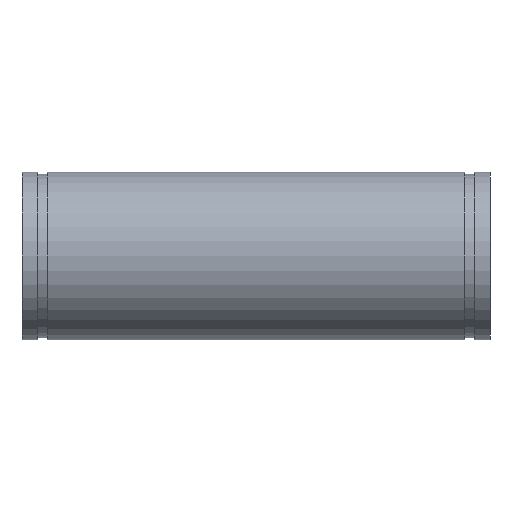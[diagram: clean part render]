
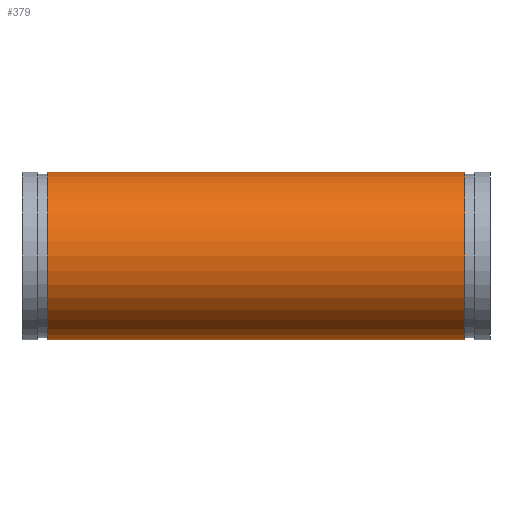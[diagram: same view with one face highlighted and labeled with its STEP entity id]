
A CAD part, left-side view. The second image highlights one B-rep face of the part: STEP entity #379.
In plain terms, the highlighted cylindrical face has radius 84.138 mm (diameter 168.275 mm), a full revolution.
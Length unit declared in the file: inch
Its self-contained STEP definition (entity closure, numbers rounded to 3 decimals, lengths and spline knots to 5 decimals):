
#45=ELLIPSE('',#439,8.65598,3.3125);
#46=ELLIPSE('',#440,8.65598,3.3125);
#47=ELLIPSE('',#441,3.58542,3.3125);
#57=LINE('',#676,#68);
#68=VECTOR('',#544,3.3125);
#79=CYLINDRICAL_SURFACE('',#438,3.3125);
#90=FACE_BOUND('',#131,.T.);
#105=FACE_OUTER_BOUND('',#130,.T.);
#130=EDGE_LOOP('',(#292,#293,#294,#295));
#131=EDGE_LOOP('',(#296,#297,#298));
#154=CIRCLE('',#426,3.3125);
#155=CIRCLE('',#428,3.3125);
#181=VERTEX_POINT('',#653);
#182=VERTEX_POINT('',#656);
#189=VERTEX_POINT('',#677);
#190=VERTEX_POINT('',#678);
#191=VERTEX_POINT('',#680);
#218=EDGE_CURVE('',#181,#181,#154,.T.);
#219=EDGE_CURVE('',#182,#182,#155,.T.);
#228=EDGE_CURVE('',#181,#182,#57,.T.);
#229=EDGE_CURVE('',#189,#190,#45,.T.);
#230=EDGE_CURVE('',#190,#191,#46,.T.);
#231=EDGE_CURVE('',#191,#189,#47,.T.);
#292=ORIENTED_EDGE('',*,*,#218,.T.);
#293=ORIENTED_EDGE('',*,*,#228,.T.);
#294=ORIENTED_EDGE('',*,*,#219,.T.);
#295=ORIENTED_EDGE('',*,*,#228,.F.);
#296=ORIENTED_EDGE('',*,*,#229,.T.);
#297=ORIENTED_EDGE('',*,*,#230,.T.);
#298=ORIENTED_EDGE('',*,*,#231,.T.);
#379=ADVANCED_FACE('',(#105,#90),#79,.T.);
#426=AXIS2_PLACEMENT_3D('',#654,#516,#517);
#428=AXIS2_PLACEMENT_3D('',#657,#520,#521);
#438=AXIS2_PLACEMENT_3D('',#675,#542,#543);
#439=AXIS2_PLACEMENT_3D('',#679,#545,#546);
#440=AXIS2_PLACEMENT_3D('',#681,#547,#548);
#441=AXIS2_PLACEMENT_3D('',#682,#549,#550);
#516=DIRECTION('center_axis',(0.,1.,0.));
#517=DIRECTION('ref_axis',(1.,0.,0.));
#520=DIRECTION('center_axis',(0.,-1.,0.));
#521=DIRECTION('ref_axis',(1.,0.,0.));
#542=DIRECTION('center_axis',(0.,-1.,0.));
#543=DIRECTION('ref_axis',(1.,0.,0.));
#544=DIRECTION('',(0.,1.,0.));
#545=DIRECTION('center_axis',(-0.924,0.383,0.));
#546=DIRECTION('ref_axis',(-0.383,-0.924,0.));
#547=DIRECTION('center_axis',(-0.924,0.383,0.));
#548=DIRECTION('ref_axis',(-0.383,-0.924,0.));
#549=DIRECTION('center_axis',(-0.383,-0.924,0.));
#550=DIRECTION('ref_axis',(0.924,-0.383,0.));
#653=CARTESIAN_POINT('',(-3.3125,-3.5,0.));
#654=CARTESIAN_POINT('Origin',(0.,-3.5,0.));
#656=CARTESIAN_POINT('',(-3.3125,13.,0.));
#657=CARTESIAN_POINT('Origin',(0.,13.,0.));
#675=CARTESIAN_POINT('Origin',(0.,14.,0.));
#676=CARTESIAN_POINT('',(-3.3125,14.,0.));
#677=CARTESIAN_POINT('',(0.,0.,3.3125));
#678=CARTESIAN_POINT('',(3.3125,7.99708,0.));
#679=CARTESIAN_POINT('Origin',(0.,0.,0.));
#680=CARTESIAN_POINT('',(0.,0.,-3.3125));
#681=CARTESIAN_POINT('Origin',(0.,0.,0.));
#682=CARTESIAN_POINT('Origin',(0.,0.,
0.));
